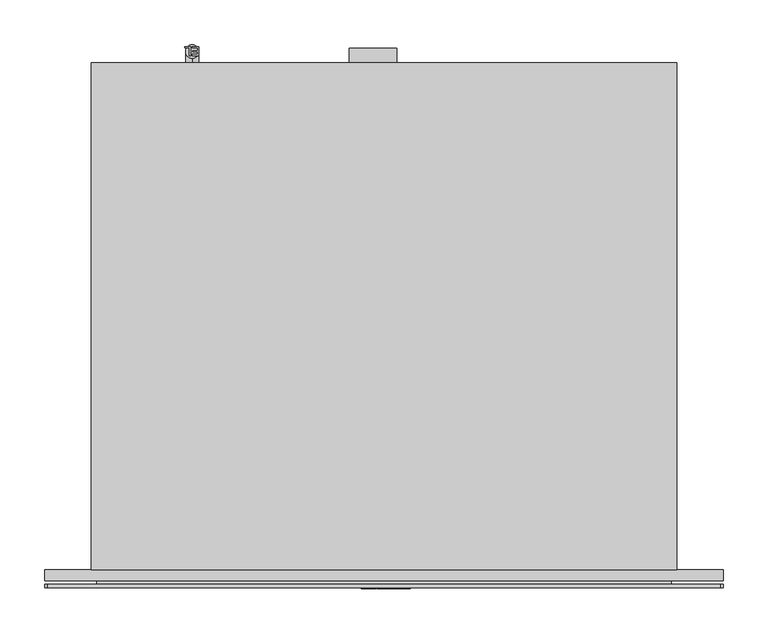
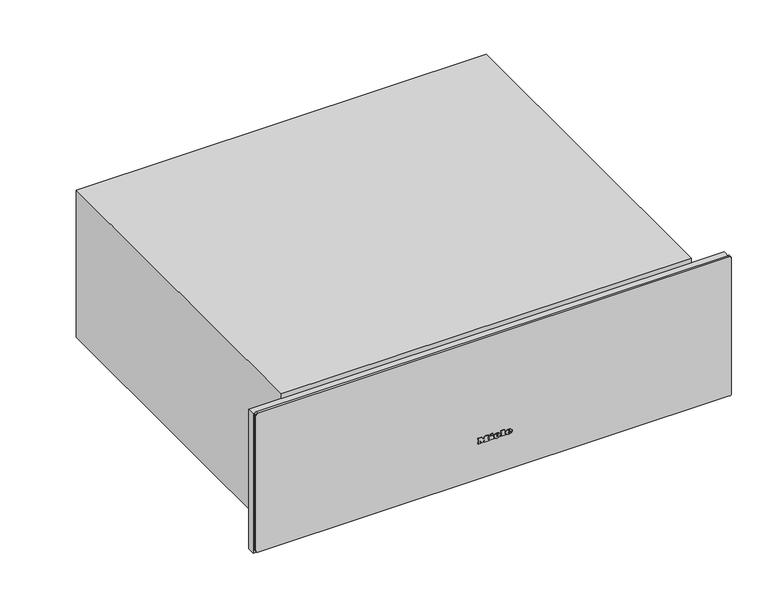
"""IFC4 building model written with IfcOpenShell, lengths in millimetres: proxy geometry, 11794820_USA_ESW7670_GRGR : 30767030_USA_11794820_ESW7670_GRGR."""

from ifc_helpers import new_model, si_unit, point, frame, frame_2d, origin, place, context, project, spatial, polyline, circle_curve, ellipse_curve, trimmed, segment, composite_curve, outline, extrude, faceted_brep, source, transform, mapped, element, save
from ifc_brep_helpers import plane_surface, cylinder_surface, revolved_surface, extruded_surface, advanced_brep


def specialty_equipment_59f16601(model_context):
    return source(origin(), model_context, "Body", "SolidModel", [
        advanced_brep(
        [(23.263, -21.0, 73.133), (23.263, -21.0, 74.042), (29.284, -21.0, 74.042), (18.808, -21.0, 74.042), (21.283, -21.0, 71.0), (29.131, -21.0, 73.133), (26.413, -21.0, 73.133), (24.271, -21.0, 72.125), (23.263, -21.0, 75.194), (23.263, -21.0, 76.175), (24.802, -21.0, 76.175), (24.802, -21.0, 75.194), (23.263, -20.0, 73.133), (24.271, -20.0, 72.125), (26.413, -20.0, 73.133), (29.131, -20.0, 73.133), (21.283, -20.0, 71.0), (18.808, -20.0, 74.042), (29.284, -20.0, 74.042), (23.263, -20.0, 74.042), (23.263, -20.0, 75.194), (24.802, -20.0, 75.194), (24.802, -20.0, 76.175), (23.263, -20.0, 76.175)],
        [
            (0, 1),
            (1, 2),
            (2, 3, ellipse_curve(frame((24.046, -21.0, 74.042), z_axis=(0.0, -1.0, 0.0), x_axis=(-1.0, 0.0, 0.0)), 5.238, 4.329)),
            (3, 4, circle_curve(frame((22.2910491, -21.0, 74.348), z_axis=(0.0, -1.0, 0.0), x_axis=(0.0, 0.0, -1.0)), 3.4964649)),
            (4, 5, circle_curve(frame((23.9411428, -21.0, 76.724), z_axis=(0.0, -1.0, 0.0), x_axis=(0.0, 0.0, -1.0)), 6.3110933)),
            (5, 6),
            (6, 7, circle_curve(frame((24.7109412, -21.0, 73.97), z_axis=(0.0, 1.0, 0.0), x_axis=(0.0, 0.0, -1.0)), 1.896727)),
            (7, 0, circle_curve(frame((24.271, -21.0, 73.133), z_axis=(0.0, 1.0, 0.0), x_axis=(0.0, 0.0, -1.0)), 1.008)),
            (8, 9),
            (9, 10, circle_curve(frame((24.0325, -21.0, 76.175), z_axis=(0.0, 1.0, 0.0), x_axis=(0.0, 0.0, -1.0)), 0.7695)),
            (10, 11),
            (11, 8),
            (12, 13, circle_curve(frame((24.271, -20.0, 73.133), z_axis=(0.0, -1.0, 0.0), x_axis=(0.0, 0.0, -1.0)), 1.008)),
            (13, 14, circle_curve(frame((24.7109412, -20.0, 73.97), z_axis=(0.0, -1.0, 0.0), x_axis=(0.0, 0.0, -1.0)), 1.896727)),
            (14, 15),
            (15, 16, circle_curve(frame((23.9411428, -20.0, 76.724), z_axis=(0.0, 1.0, 0.0), x_axis=(0.0, 0.0, -1.0)), 6.3110933)),
            (16, 17, circle_curve(frame((22.2910491, -20.0, 74.348), z_axis=(0.0, 1.0, 0.0), x_axis=(0.0, 0.0, -1.0)), 3.4964649)),
            (17, 18, ellipse_curve(frame((24.046, -20.0, 74.042), z_axis=(0.0, 1.0, 0.0), x_axis=(-1.0, 0.0, 0.0)), 5.238, 4.329)),
            (18, 19),
            (19, 12),
            (20, 21),
            (21, 22),
            (22, 23, circle_curve(frame((24.0325, -20.0, 76.175), z_axis=(0.0, -1.0, 0.0), x_axis=(0.0, 0.0, -1.0)), 0.7695)),
            (23, 20),
            (0, 12),
            (19, 1),
            (18, 2),
            (5, 15),
            (14, 6),
            (17, 3),
            (13, 7),
            (16, 4),
            (8, 20),
            (23, 9),
            (22, 10),
            (21, 11),
        ],
        [
            plane_surface(frame((23.263, -21.0, 74.042), z_axis=(0.0, -1.0, 0.0), x_axis=(0.0, 0.0, 1.0))),
            plane_surface(frame((23.263, -20.0, 74.042), z_axis=(0.0, 1.0, 0.0), x_axis=(0.0, 0.0, -1.0))),
            plane_surface(frame((23.263, -21.0, 73.133), z_axis=(1.0, 0.0, 0.0), x_axis=(0.0, 1.0, 0.0))),
            plane_surface(frame((23.263, -21.0, 74.042), z_axis=(0.0, 0.0, -1.0), x_axis=(0.0, 1.0, 0.0))),
            plane_surface(frame((29.131, -21.0, 73.133), z_axis=(0.0, 0.0, 1.0), x_axis=(0.0, 1.0, 0.0))),
            extruded_surface(trimmed(ellipse_curve(frame((24.046, -19.0, 74.042), z_axis=(0.0, -1.0, 0.0), x_axis=(-1.0, 0.0, 0.0)), 5.238, 4.329), [point((29.284, -19.0, 74.042))], [point((18.808, -19.0, 74.042))], True, "CARTESIAN"), (0.0, -1.0, 0.0), 1.0),
            revolved_surface(polyline([(24.7109412, -20.0, 72.073273), (24.7109412, -21.0, 72.073273)]), (24.7109412, -20.0, 73.97), (0.0, 1.0, 0.0)),
            revolved_surface(polyline([(24.271, -20.0, 72.125), (24.271, -21.0, 72.125)]), (24.271, -20.0, 73.133), (0.0, 1.0, 0.0)),
            cylinder_surface(frame((22.2910491, -20.0, 74.348), z_axis=(0.0, -1.0, 0.0), x_axis=(0.0, 0.0, -1.0)), 3.4964649),
            cylinder_surface(frame((23.9411428, -20.0, 76.724), z_axis=(0.0, -1.0, 0.0), x_axis=(0.0, 0.0, -1.0)), 6.3110933),
            plane_surface(frame((23.263, -21.0, 75.194), z_axis=(1.0, 0.0, 0.0), x_axis=(0.0, 1.0, 0.0))),
            revolved_surface(polyline([(24.0325, -20.0, 75.4055), (24.0325, -21.0, 75.4055)]), (24.0325, -20.0, 76.175), (0.0, 1.0, 0.0)),
            plane_surface(frame((24.802, -21.0, 76.175), z_axis=(-1.0, 0.0, 0.0), x_axis=(0.0, 1.0, 0.0))),
            plane_surface(frame((24.802, -21.0, 75.194), z_axis=(0.0, 0.0, 1.0), x_axis=(0.0, 1.0, 0.0))),
        ],
        [
            (0, [[1, 2, 3, 4, 5, 6, 7, 8], [9, 10, 11, 12]]),
            (1, [[13, 14, 15, 16, 17, 18, 19, 20], [21, 22, 23, 24]]),
            (2, [[-1, 25, -20, 26]]),
            (3, [[-2, -26, -19, 27]]),
            (4, [[-6, 28, -15, 29]]),
            (5, [[-3, -27, -18, 30]]),
            (6, [[-7, -29, -14, 31]]),
            (7, [[-8, -31, -13, -25]]),
            (8, [[-4, -30, -17, 32]]),
            (9, [[-5, -32, -16, -28]]),
            (10, [[-9, 33, -24, 34]]),
            (11, [[-10, -34, -23, 35]]),
            (12, [[-11, -35, -22, 36]]),
            (13, [[-12, -36, -21, -33]]),
        ],
    ),
        advanced_brep(
        [(4.48, -21.0, 73.133), (4.48, -21.0, 74.042), (10.501, -21.0, 74.042), (0.025, -21.0, 74.042), (2.5, -21.0, 71.0), (10.348, -21.0, 73.133), (7.63, -21.0, 73.133), (5.488, -21.0, 72.125), (4.48, -21.0, 75.194), (4.48, -21.0, 76.175), (6.019, -21.0, 76.175), (6.019, -21.0, 75.194), (4.48, -20.0, 73.133), (5.488, -20.0, 72.125), (7.63, -20.0, 73.133), (10.348, -20.0, 73.133), (2.5, -20.0, 71.0), (0.025, -20.0, 74.042), (10.501, -20.0, 74.042), (4.48, -20.0, 74.042), (4.48, -20.0, 75.194), (6.019, -20.0, 75.194), (6.019, -20.0, 76.175), (4.48, -20.0, 76.175)],
        [
            (0, 1),
            (1, 2),
            (2, 3, ellipse_curve(frame((5.263, -21.0, 74.042), z_axis=(0.0, -1.0, 0.0), x_axis=(-1.0, 0.0, 0.0)), 5.238, 4.329)),
            (3, 4, circle_curve(frame((3.5080491, -21.0, 74.348), z_axis=(0.0, -1.0, 0.0), x_axis=(0.0, 0.0, -1.0)), 3.4964649)),
            (4, 5, circle_curve(frame((5.1581428, -21.0, 76.724), z_axis=(0.0, -1.0, 0.0), x_axis=(0.0, 0.0, -1.0)), 6.3110933)),
            (5, 6),
            (6, 7, circle_curve(frame((5.9279412, -21.0, 73.97), z_axis=(0.0, 1.0, 0.0), x_axis=(0.0, 0.0, -1.0)), 1.896727)),
            (7, 0, circle_curve(frame((5.488, -21.0, 73.133), z_axis=(0.0, 1.0, 0.0), x_axis=(0.0, 0.0, -1.0)), 1.008)),
            (8, 9),
            (9, 10, circle_curve(frame((5.2495, -21.0, 76.175), z_axis=(0.0, 1.0, 0.0), x_axis=(0.0, 0.0, -1.0)), 0.7695)),
            (10, 11),
            (11, 8),
            (12, 13, circle_curve(frame((5.488, -20.0, 73.133), z_axis=(0.0, -1.0, 0.0), x_axis=(0.0, 0.0, -1.0)), 1.008)),
            (13, 14, circle_curve(frame((5.9279412, -20.0, 73.97), z_axis=(0.0, -1.0, 0.0), x_axis=(0.0, 0.0, -1.0)), 1.896727)),
            (14, 15),
            (15, 16, circle_curve(frame((5.1581428, -20.0, 76.724), z_axis=(0.0, 1.0, 0.0), x_axis=(0.0, 0.0, -1.0)), 6.3110933)),
            (16, 17, circle_curve(frame((3.5080491, -20.0, 74.348), z_axis=(0.0, 1.0, 0.0), x_axis=(0.0, 0.0, -1.0)), 3.4964649)),
            (17, 18, ellipse_curve(frame((5.263, -20.0, 74.042), z_axis=(0.0, 1.0, 0.0), x_axis=(-1.0, 0.0, 0.0)), 5.238, 4.329)),
            (18, 19),
            (19, 12),
            (20, 21),
            (21, 22),
            (22, 23, circle_curve(frame((5.2495, -20.0, 76.175), z_axis=(0.0, -1.0, 0.0), x_axis=(0.0, 0.0, -1.0)), 0.7695)),
            (23, 20),
            (0, 12),
            (19, 1),
            (18, 2),
            (5, 15),
            (14, 6),
            (17, 3),
            (13, 7),
            (16, 4),
            (8, 20),
            (23, 9),
            (22, 10),
            (21, 11),
        ],
        [
            plane_surface(frame((4.48, -21.0, 74.042), z_axis=(0.0, -1.0, 0.0), x_axis=(0.0, 0.0, 1.0))),
            plane_surface(frame((4.48, -20.0, 74.042), z_axis=(0.0, 1.0, 0.0), x_axis=(0.0, 0.0, -1.0))),
            plane_surface(frame((4.48, -21.0, 73.133), z_axis=(1.0, 0.0, 0.0), x_axis=(0.0, 1.0, 0.0))),
            plane_surface(frame((4.48, -21.0, 74.042), z_axis=(0.0, 0.0, -1.0), x_axis=(0.0, 1.0, 0.0))),
            plane_surface(frame((10.348, -21.0, 73.133), z_axis=(0.0, 0.0, 1.0), x_axis=(0.0, 1.0, 0.0))),
            extruded_surface(trimmed(ellipse_curve(frame((5.263, -19.0, 74.042), z_axis=(0.0, -1.0, 0.0), x_axis=(-1.0, 0.0, 0.0)), 5.238, 4.329), [point((10.501, -19.0, 74.042))], [point((0.025, -19.0, 74.042))], True, "CARTESIAN"), (0.0, -1.0, 0.0), 1.0),
            revolved_surface(polyline([(5.9279412, -20.0, 72.073273), (5.9279412, -21.0, 72.073273)]), (5.9279412, -20.0, 73.97), (0.0, 1.0, 0.0)),
            revolved_surface(polyline([(5.488, -20.0, 72.125), (5.488, -21.0, 72.125)]), (5.488, -20.0, 73.133), (0.0, 1.0, 0.0)),
            cylinder_surface(frame((3.5080491, -20.0, 74.348), z_axis=(0.0, -1.0, 0.0), x_axis=(0.0, 0.0, -1.0)), 3.4964649),
            cylinder_surface(frame((5.1581428, -20.0, 76.724), z_axis=(0.0, -1.0, 0.0), x_axis=(0.0, 0.0, -1.0)), 6.3110933),
            plane_surface(frame((4.48, -21.0, 75.194), z_axis=(1.0, 0.0, 0.0), x_axis=(0.0, 1.0, 0.0))),
            revolved_surface(polyline([(5.2495, -20.0, 75.4055), (5.2495, -21.0, 75.4055)]), (5.2495, -20.0, 76.175), (0.0, 1.0, 0.0)),
            plane_surface(frame((6.019, -21.0, 76.175), z_axis=(-1.0, 0.0, 0.0), x_axis=(0.0, 1.0, 0.0))),
            plane_surface(frame((6.019, -21.0, 75.194), z_axis=(0.0, 0.0, 1.0), x_axis=(0.0, 1.0, 0.0))),
        ],
        [
            (0, [[1, 2, 3, 4, 5, 6, 7, 8], [9, 10, 11, 12]]),
            (1, [[13, 14, 15, 16, 17, 18, 19, 20], [21, 22, 23, 24]]),
            (2, [[-1, 25, -20, 26]]),
            (3, [[-2, -26, -19, 27]]),
            (4, [[-6, 28, -15, 29]]),
            (5, [[-3, -27, -18, 30]]),
            (6, [[-7, -29, -14, 31]]),
            (7, [[-8, -31, -13, -25]]),
            (8, [[-4, -30, -17, 32]]),
            (9, [[-5, -32, -16, -28]]),
            (10, [[-9, 33, -24, 34]]),
            (11, [[-10, -34, -23, 35]]),
            (12, [[-11, -35, -22, 36]]),
            (13, [[-12, -36, -21, -33]]),
        ],
    ),
        extrude(outline(polyline([(79.469, -5.357), (78.011, -4.673), (79.433, -1.622), (80.891, -2.297), (79.469, -5.357)])), frame((0.0, -21.0, 0.0), z_axis=(0.0, 1.0, 0.0), x_axis=(0.0, 0.0, 1.0)), (0.0, 0.0, 1.0), 1.0),
        extrude(outline(polyline([(77.813, -7.58), (76.202, -7.58), (76.202, -6.509), (72.512, -6.509), (72.512, -7.58), (71.0, -7.58), (71.0, -0.479), (72.512, -0.479), (72.512, -1.523), (77.813, -1.523), (77.813, -7.58)])), frame((0.0, -21.0, 0.0), z_axis=(0.0, 1.0, 0.0), x_axis=(0.0, 0.0, 1.0)), (0.0, 0.0, 1.0), 1.0),
        extrude(outline(polyline([(78.533, 11.005), (78.533, 12.085), (72.512, 12.085), (72.512, 11.005), (71.0, 11.005), (71.0, 18.304), (72.512, 18.304), (72.512, 17.197), (80.0, 17.197), (80.0, 11.005), (78.533, 11.005)])), frame((0.0, -21.0, 0.0), z_axis=(0.0, 1.0, 0.0), x_axis=(0.0, 0.0, 1.0)), (0.0, 0.0, 1.0), 1.0),
        extrude(outline(polyline([(78.533, -25.517), (78.533, -24.428), (72.512, -24.428), (72.512, -25.517), (71.0, -25.517), (71.0, -21.557), (72.512, -21.557), (72.512, -22.637), (76.3341247, -22.637), (71.0, -18.614), (76.4402223, -14.573), (72.512, -14.573), (72.512, -15.68), (71.0, -15.68), (71.0, -8.498), (72.512, -8.498), (72.512, -9.641), (78.533, -9.641), (78.533, -8.498), (80.0, -8.498), (80.0, -13.979), (76.625, -16.607), (80.0, -19.244), (80.0, -25.517), (78.533, -25.517)])), frame((0.0, -21.0, 0.0), z_axis=(0.0, 1.0, 0.0), x_axis=(0.0, 0.0, 1.0)), (0.0, 0.0, 1.0), 1.0),
        extrude(outline(polyline([(20.0, 230.0), (20.0, 189.0), (5.0, 189.0), (5.0, 46.0), (-12.0, 46.0), (-12.0, 230.0), (20.0, 230.0)])), frame((-316.5, 0.0, 0.0), z_axis=(1.0, 0.0, 0.0), x_axis=(0.0, 1.0, 0.0)), (0.0, 0.0, 1.0), 633.0),
        extrude(outline(composite_curve([segment(polyline([(245.0, 375.5), (245.0, -375.5)]), True, "CONTINUOUS"), segment(trimmed(circle_curve(frame_2d((242.0, -375.5)), 3.0), [point((245.0, -375.5))], [point((242.0, -378.5))], False, "CARTESIAN"), True, "CONTINUOUS"), segment(polyline([(242.0, -378.5), (14.0, -378.5)]), True, "CONTINUOUS"), segment(trimmed(circle_curve(frame_2d((14.0, -375.5)), 3.0), [point((14.0, -378.5))], [point((11.0, -375.5))], False, "CARTESIAN"), True, "CONTINUOUS"), segment(polyline([(11.0, -375.5), (11.0, 375.5)]), True, "CONTINUOUS"), segment(trimmed(circle_curve(frame_2d((14.0, 375.5)), 3.0), [point((11.0, 375.5))], [point((14.0, 378.5))], False, "CARTESIAN"), True, "CONTINUOUS"), segment(polyline([(14.0, 378.5), (242.0, 378.5)]), True, "CONTINUOUS"), segment(trimmed(circle_curve(frame_2d((242.0, 375.5)), 3.0), [point((242.0, 378.5))], [point((245.0, 375.5))], False, "CARTESIAN"), True, "CONTINUOUS")], self_intersect=False)), frame((0.0, -20.0, 0.0), z_axis=(0.0, 1.0, 0.0), x_axis=(0.0, 0.0, 1.0)), (0.0, 0.0, 1.0), 4.0),
        extrude(outline(polyline([(-320.5, -12.0), (320.5, -12.0), (320.5, -16.0), (-320.5, -16.0), (-320.5, -12.0)])), frame((0.0, 0.0, 19.0), z_axis=(0.0, 0.0, 1.0), x_axis=(1.0, 0.0, 0.0)), (0.0, 0.0, 1.0), 219.0),
        extrude(outline(polyline([(-206.6227397, 584.030815), (-206.6227397, 573.985184), (-213.843037, 573.985184), (-213.843037, 575.2408878), (-207.8784436, 575.2408878), (-207.8784436, 578.2231846), (-213.529111, 578.2231846), (-213.529111, 579.4788884), (-207.8784436, 579.4788884), (-207.8784436, 582.7751111), (-214.0, 582.7751111), (-214.0, 584.030815), (-206.6227397, 584.030815)])), frame((0.0, 0.0, 49.0), z_axis=(0.0, 0.0, 1.0), x_axis=(1.0, 0.0, 0.0)), (0.0, 0.0, 1.0), 1.0),
        extrude(outline(polyline([(-215.8835558, 584.030815), (-215.8835558, 573.985184), (-217.1392597, 573.985184), (-217.1392597, 582.7751111), (-222.1620752, 582.7751111), (-222.1620752, 584.030815), (-215.8835558, 584.030815)])), frame((0.0, 0.0, 49.0), z_axis=(0.0, 0.0, 1.0), x_axis=(1.0, 0.0, 0.0)), (0.0, 0.0, 1.0), 1.0),
        advanced_brep(
        [(-214.0, 566.0, 26.5), (-214.0, 566.0, 11.5), (-214.0, 571.0, 26.5), (-214.0, 586.0, 11.5), (-214.0, 571.0, 49.0), (-214.0, 586.0, 49.0)],
        [
            (0, 1, circle_curve(frame((-214.0, 566.0, 19.0), z_axis=(0.0, -1.0, 0.0), x_axis=(0.0, 0.0, -1.0)), 7.5)),
            (1, 0, circle_curve(frame((-214.0, 566.0, 19.0), z_axis=(0.0, -1.0, 0.0), x_axis=(0.0, 0.0, -1.0)), 7.5)),
            (0, 2),
            (2, 3, ellipse_curve(frame((-214.0, 578.5, 19.0), z_axis=(0.0, -0.7071067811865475, -0.7071067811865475), x_axis=(0.0, -0.7071067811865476, 0.7071067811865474)), 10.6066017, 7.5)),
            (3, 1),
            (3, 2, ellipse_curve(frame((-214.0, 578.5, 19.0), z_axis=(0.0, -0.7071067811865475, -0.7071067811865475), x_axis=(0.0, -0.7071067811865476, 0.7071067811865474)), 10.6066017, 7.5)),
            (4, 5, circle_curve(frame((-214.0, 578.5, 49.0), z_axis=(0.0, 0.0, 1.0), x_axis=(0.0, 1.0, 0.0)), 7.5)),
            (5, 4, circle_curve(frame((-214.0, 578.5, 49.0), z_axis=(0.0, 0.0, 1.0), x_axis=(0.0, 1.0, 0.0)), 7.5)),
            (2, 4),
            (5, 3),
        ],
        [
            plane_surface(frame((-214.0, 566.0, 19.0), z_axis=(0.0, -1.0, 0.0), x_axis=(-1.0, 0.0, 0.0))),
            cylinder_surface(frame((-214.0, 566.0, 19.0), z_axis=(0.0, -1.0, 0.0), x_axis=(0.0, 0.0, -1.0)), 7.5),
            plane_surface(frame((-214.0, 578.5, 49.0), z_axis=(0.0, 0.0, 1.0), x_axis=(-1.0, 0.0, 0.0))),
            cylinder_surface(frame((-214.0, 578.5, 19.0), z_axis=(0.0, 0.0, -1.0), x_axis=(0.0, 1.0, 0.0)), 7.5),
        ],
        [
            (0, [[1, 2]]),
            (1, [[-1, 3, 4, 5]]),
            (1, [[-2, -5, 6, -3]]),
            (2, [[7, 8]]),
            (3, [[-4, 9, -8, 10]]),
            (3, [[-6, -10, -7, -9]]),
        ],
    ),
        extrude(outline(polyline([(-39.0, 582.0), (14.0, 582.0), (14.0, 566.0), (-39.0, 566.0), (-39.0, 582.0)])), frame((0.0, 0.0, 16.0), z_axis=(0.0, 0.0, 1.0), x_axis=(1.0, 0.0, 0.0)), (0.0, 0.0, 1.0), 29.0),
        faceted_brep([(326.5, 566.0, 248.0), (-326.5, 566.0, 248.0), (-326.5, 0.0, 248.0), (326.5, 0.0, 248.0), (326.5, 566.0, 0.0), (326.5, 0.0, 0.0), (-326.5, 0.0, 0.0), (-326.5, 566.0, 0.0), (324.5, 0.0, 236.0), (324.5, 0.0, 13.0), (-324.5, 0.0, 13.0), (-324.5, 0.0, 236.0), (324.5, 561.0, 236.0), (-324.5, 561.0, 236.0), (-324.5, 561.0, 13.0), (324.5, 561.0, 13.0)], [[[0, 1, 2, 3]], [[4, 5, 6, 7]], [[1, 0, 4, 7]], [[2, 1, 7, 6]], [[3, 2, 6, 5], [8, 9, 10, 11]], [[0, 3, 5, 4]], [[12, 13, 14, 15]], [[12, 15, 9, 8]], [[15, 14, 10, 9]], [[14, 13, 11, 10]], [[13, 12, 8, 11]]]),
        faceted_brep([(378.5, -12.0, 240.5), (-378.5, -12.0, 240.5), (-378.5, -12.0, 5.5), (-324.5, -12.0, 5.5), (-324.5, -12.0, 13.0), (-324.5, -12.0, 236.0), (324.5, -12.0, 236.0), (324.5, -12.0, 13.0), (324.5, -12.0, 5.5), (378.5, -12.0, 5.5), (378.5, 0.0, 240.5), (378.5, 0.0, 5.5), (324.5, 0.0, 5.5), (324.5, 0.0, 13.0), (324.5, 0.0, 236.0), (-324.5, 0.0, 236.0), (-324.5, 0.0, 13.0), (-324.5, 0.0, 5.5), (-378.5, 0.0, 5.5), (-378.5, 0.0, 240.5)], [[[0, 1, 2, 3, 4, 5, 6, 7, 8, 9]], [[10, 11, 12, 13, 14, 15, 16, 17, 18, 19]], [[0, 9, 11, 10]], [[9, 8, 12, 11]], [[2, 1, 19, 18]], [[1, 0, 10, 19]], [[12, 8, 7, 6, 14, 13]], [[6, 5, 15, 14]], [[15, 5, 4, 3, 17, 16]], [[3, 2, 18, 17]]]),
    ])


if __name__ == "__main__":
    model = new_model("IFC4")
    model_context = context("Model", 3, world=origin())
    ifc_project = project(units=[si_unit("LENGTHUNIT", "METRE", prefix="MILLI")], contexts=[model_context])
    site = spatial("IfcSite", under=ifc_project)
    building = spatial("IfcBuilding", under=site)
    placement = place(None, origin())
    specialty_equipment_shape = specialty_equipment_59f16601(model_context)
    element("IfcBuildingElementProxy", 1, Name="11794820_USA_ESW7670_GRGR : 30767030_USA_11794820_ESW7670_GRGR", ObjectType="11794820_USA_ESW7670_GRGR : 30767030_USA_11794820_ESW7670_GRGR", at=placement, inside=building, context=model_context, shape_type="MappedRepresentation", body=[
        mapped(specialty_equipment_shape, transform((0.0, 0.0, 0.0), x_axis=(1.0, 0.0, 0.0), y_axis=(0.0, 1.0, 0.0), z_axis=(0.0, 0.0, 1.0))),
    ])
    save(model, "model.ifc")
